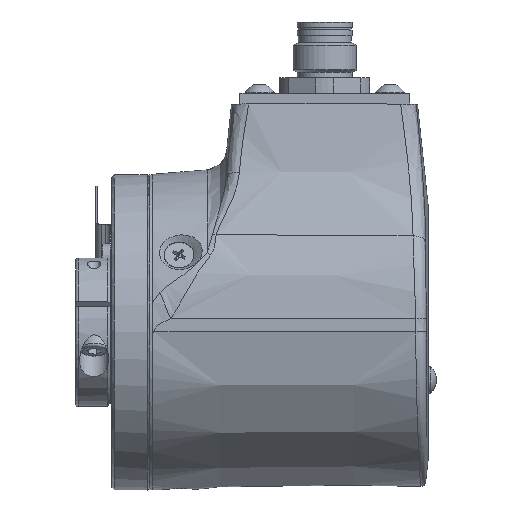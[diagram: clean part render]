
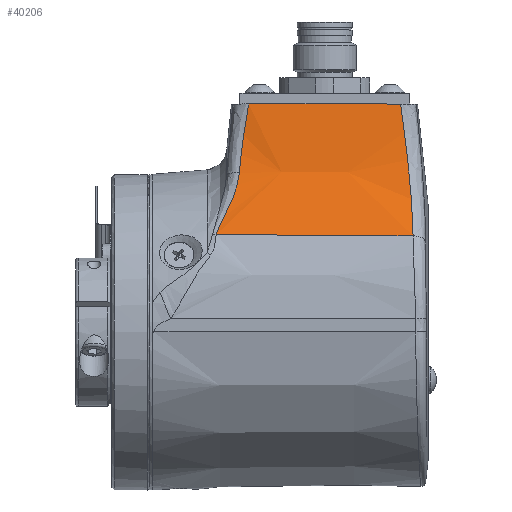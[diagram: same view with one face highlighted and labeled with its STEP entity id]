
A CAD part, front view. The second image highlights one B-rep face of the part: STEP entity #40206.
In plain terms, the highlighted conical face has half-angle 0.7 degrees and reference radius 50 mm.
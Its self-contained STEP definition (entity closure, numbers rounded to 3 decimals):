
#285=B_SPLINE_CURVE_WITH_KNOTS('',3,(#54121,#54122,#54123,#54124,#54125,
#54126,#54127,#54128,#54129,#54130,#54131,#54132,#54133,#54134,#54135,#54136),
 .UNSPECIFIED.,.F.,.F.,(4,1,1,1,1,1,1,1,1,1,1,1,1,4),(0.,0.125,0.25,0.313,
0.375,0.438,0.469,0.5,0.531,0.563,0.625,0.75,0.875,1.),
 .UNSPECIFIED.);
#294=B_SPLINE_CURVE_WITH_KNOTS('',3,(#54274,#54275,#54276,#54277,#54278,
#54279,#54280,#54281,#54282,#54283,#54284,#54285,#54286,#54287,#54288,#54289,
#54290,#54291,#54292,#54293,#54294,#54295,#54296,#54297,#54298,#54299,#54300,
#54301),.UNSPECIFIED.,.F.,.F.,(4,1,1,1,1,1,1,1,1,1,1,1,1,1,1,1,1,1,1,1,
1,1,1,1,1,4),(0.,0.125,0.188,0.219,0.25,0.281,0.313,0.375,0.438,
0.469,0.484,0.5,0.516,0.531,0.563,0.625,0.688,0.719,0.734,
0.75,0.766,0.781,0.813,0.875,0.938,1.),.UNSPECIFIED.);
#309=B_SPLINE_CURVE_WITH_KNOTS('',3,(#54606,#54607,#54608,#54609,#54610,
#54611,#54612,#54613,#54614,#54615,#54616,#54617,#54618,#54619,#54620,#54621,
#54622,#54623,#54624,#54625,#54626,#54627,#54628,#54629,#54630,#54631,#54632,
#54633,#54634,#54635,#54636,#54637,#54638,#54639,#54640,#54641,#54642,#54643,
#54644,#54645,#54646),.UNSPECIFIED.,.F.,.F.,(4,1,1,1,1,1,1,1,1,1,1,1,1,
1,1,1,1,1,1,1,1,1,1,1,1,1,1,1,1,1,1,1,1,1,1,1,1,1,4),(0.,0.063,0.125,0.188,
0.219,0.234,0.25,0.266,0.281,0.313,0.375,0.438,0.469,0.484,
0.492,0.5,0.508,0.516,0.531,0.563,0.594,0.625,0.656,0.688,
0.719,0.734,0.742,0.75,0.758,0.766,0.781,0.813,0.844,
0.859,0.875,0.891,0.906,0.938,1.),.UNSPECIFIED.);
#770=LINE('',#54433,#3621);
#771=LINE('',#54648,#3622);
#3621=VECTOR('',#45741,1000.);
#3622=VECTOR('',#45744,1000.);
#6204=CONICAL_SURFACE('',#42197,50.,0.012);
#8761=ORIENTED_EDGE('',*,*,#16185,.F.);
#8762=ORIENTED_EDGE('',*,*,#16160,.T.);
#8763=ORIENTED_EDGE('',*,*,#16193,.T.);
#8764=ORIENTED_EDGE('',*,*,#16194,.F.);
#8765=ORIENTED_EDGE('',*,*,#16176,.T.);
#16160=EDGE_CURVE('',#20019,#20020,#285,.T.);
#16176=EDGE_CURVE('',#20036,#20035,#294,.T.);
#16185=EDGE_CURVE('',#20019,#20035,#770,.T.);
#16193=EDGE_CURVE('',#20020,#20047,#309,.T.);
#16194=EDGE_CURVE('',#20036,#20047,#771,.T.);
#20019=VERTEX_POINT('',#54137);
#20020=VERTEX_POINT('',#54138);
#20035=VERTEX_POINT('',#54273);
#20036=VERTEX_POINT('',#54302);
#20047=VERTEX_POINT('',#54647);
#23701=EDGE_LOOP('',(#8761,#8762,#8763,#8764,#8765));
#25889=FACE_BOUND('',#23701,.T.);
#40206=ADVANCED_FACE('',(#25889),#6204,.F.);
#42197=AXIS2_PLACEMENT_3D('',#54605,#45742,#45743);
#45741=DIRECTION('',(1.,0.012,0.));
#45742=DIRECTION('',(1.,0.,0.));
#45743=DIRECTION('',(0.,-1.,0.003));
#45744=DIRECTION('',(-1.,-0.01,0.007));
#54121=CARTESIAN_POINT('',(19.63,-17.182,43.051));
#54122=CARTESIAN_POINT('',(19.52,-17.211,42.397));
#54123=CARTESIAN_POINT('',(19.312,-17.293,41.143));
#54124=CARTESIAN_POINT('',(19.083,-17.438,39.707));
#54125=CARTESIAN_POINT('',(18.917,-17.573,38.639));
#54126=CARTESIAN_POINT('',(18.801,-17.681,37.875));
#54127=CARTESIAN_POINT('',(18.713,-17.774,37.281));
#54128=CARTESIAN_POINT('',(18.645,-17.854,36.806));
#54129=CARTESIAN_POINT('',(18.603,-17.905,36.511));
#54130=CARTESIAN_POINT('',(18.536,-17.992,36.03));
#54131=CARTESIAN_POINT('',(18.46,-18.102,35.463));
#54132=CARTESIAN_POINT('',(18.328,-18.308,34.457));
#54133=CARTESIAN_POINT('',(18.165,-18.627,33.089));
#54134=CARTESIAN_POINT('',(18.002,-19.045,31.526));
#54135=CARTESIAN_POINT('',(17.917,-19.341,30.541));
#54136=CARTESIAN_POINT('',(17.88,-19.493,30.063));
#54137=CARTESIAN_POINT('',(19.63,-17.182,43.051));
#54138=CARTESIAN_POINT('',(17.88,-19.493,30.063));
#54273=CARTESIAN_POINT('',(48.295,-16.831,43.05));
#54274=CARTESIAN_POINT('',(50.644,-24.577,18.176));
#54275=CARTESIAN_POINT('',(50.635,-24.011,19.071));
#54276=CARTESIAN_POINT('',(50.599,-23.191,20.463));
#54277=CARTESIAN_POINT('',(50.518,-22.287,22.188));
#54278=CARTESIAN_POINT('',(50.462,-21.795,23.187));
#54279=CARTESIAN_POINT('',(50.411,-21.419,23.984));
#54280=CARTESIAN_POINT('',(50.365,-21.116,24.657));
#54281=CARTESIAN_POINT('',(50.294,-20.694,25.627));
#54282=CARTESIAN_POINT('',(50.193,-20.19,26.869));
#54283=CARTESIAN_POINT('',(50.075,-19.708,28.174));
#54284=CARTESIAN_POINT('',(49.983,-19.385,29.124));
#54285=CARTESIAN_POINT('',(49.929,-19.208,29.667));
#54286=CARTESIAN_POINT('',(49.884,-19.07,30.105));
#54287=CARTESIAN_POINT('',(49.849,-18.964,30.448));
#54288=CARTESIAN_POINT('',(49.796,-18.815,30.947));
#54289=CARTESIAN_POINT('',(49.703,-18.564,31.821));
#54290=CARTESIAN_POINT('',(49.556,-18.222,33.129));
#54291=CARTESIAN_POINT('',(49.396,-17.911,34.495));
#54292=CARTESIAN_POINT('',(49.276,-17.712,35.495));
#54293=CARTESIAN_POINT('',(49.206,-17.606,36.062));
#54294=CARTESIAN_POINT('',(49.148,-17.522,36.533));
#54295=CARTESIAN_POINT('',(49.108,-17.468,36.853));
#54296=CARTESIAN_POINT('',(49.046,-17.389,37.345));
#54297=CARTESIAN_POINT('',(48.936,-17.259,38.206));
#54298=CARTESIAN_POINT('',(48.766,-17.09,39.524));
#54299=CARTESIAN_POINT('',(48.542,-16.929,41.218));
#54300=CARTESIAN_POINT('',(48.379,-16.857,42.426));
#54301=CARTESIAN_POINT('',(48.295,-16.831,43.05));
#54302=CARTESIAN_POINT('',(50.644,-24.577,18.176));
#54433=CARTESIAN_POINT('',(33.963,-17.006,43.05));
#54605=CARTESIAN_POINT('',(1.5,-67.357,45.198));
#54606=CARTESIAN_POINT('',(17.88,-19.493,30.063));
#54607=CARTESIAN_POINT('',(17.859,-19.579,29.793));
#54608=CARTESIAN_POINT('',(17.796,-19.759,29.242));
#54609=CARTESIAN_POINT('',(17.636,-20.058,28.381));
#54610=CARTESIAN_POINT('',(17.45,-20.331,27.64));
#54611=CARTESIAN_POINT('',(17.289,-20.54,27.1));
#54612=CARTESIAN_POINT('',(17.194,-20.659,26.8));
#54613=CARTESIAN_POINT('',(17.106,-20.764,26.538));
#54614=CARTESIAN_POINT('',(17.06,-20.818,26.406));
#54615=CARTESIAN_POINT('',(16.979,-20.911,26.18));
#54616=CARTESIAN_POINT('',(16.835,-21.072,25.793));
#54617=CARTESIAN_POINT('',(16.597,-21.328,25.198));
#54618=CARTESIAN_POINT('',(16.321,-21.614,24.563));
#54619=CARTESIAN_POINT('',(16.109,-21.83,24.099));
#54620=CARTESIAN_POINT('',(15.996,-21.944,23.858));
#54621=CARTESIAN_POINT('',(15.934,-22.008,23.726));
#54622=CARTESIAN_POINT('',(15.876,-22.066,23.604));
#54623=CARTESIAN_POINT('',(15.857,-22.085,23.566));
#54624=CARTESIAN_POINT('',(15.816,-22.127,23.479));
#54625=CARTESIAN_POINT('',(15.743,-22.2,23.329));
#54626=CARTESIAN_POINT('',(15.615,-22.328,23.069));
#54627=CARTESIAN_POINT('',(15.434,-22.512,22.704));
#54628=CARTESIAN_POINT('',(15.217,-22.733,22.272));
#54629=CARTESIAN_POINT('',(14.985,-22.976,21.812));
#54630=CARTESIAN_POINT('',(14.805,-23.168,21.457));
#54631=CARTESIAN_POINT('',(14.682,-23.302,21.213));
#54632=CARTESIAN_POINT('',(14.616,-23.375,21.082));
#54633=CARTESIAN_POINT('',(14.579,-23.416,21.007));
#54634=CARTESIAN_POINT('',(14.565,-23.432,20.98));
#54635=CARTESIAN_POINT('',(14.509,-23.495,20.867));
#54636=CARTESIAN_POINT('',(14.452,-23.561,20.749));
#54637=CARTESIAN_POINT('',(14.348,-23.682,20.536));
#54638=CARTESIAN_POINT('',(14.215,-23.842,20.258));
#54639=CARTESIAN_POINT('',(14.099,-23.988,20.009));
#54640=CARTESIAN_POINT('',(14.014,-24.101,19.816));
#54641=CARTESIAN_POINT('',(13.964,-24.168,19.704));
#54642=CARTESIAN_POINT('',(13.881,-24.286,19.507));
#54643=CARTESIAN_POINT('',(13.79,-24.421,19.283));
#54644=CARTESIAN_POINT('',(13.644,-24.659,18.896));
#54645=CARTESIAN_POINT('',(13.551,-24.844,18.602));
#54646=CARTESIAN_POINT('',(13.503,-24.96,18.418));
#54647=CARTESIAN_POINT('',(13.503,-24.96,18.418));
#54648=CARTESIAN_POINT('',(1.5,-25.084,18.496));
